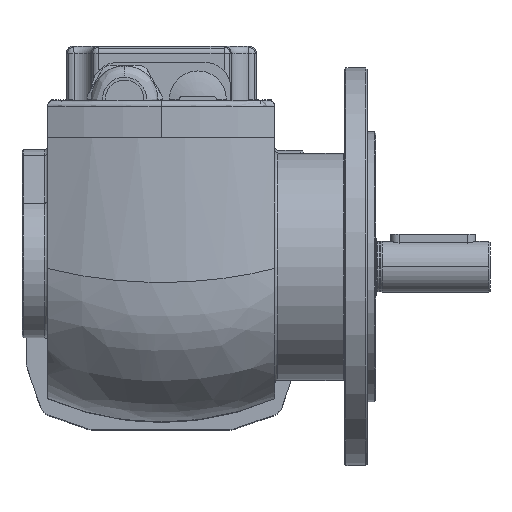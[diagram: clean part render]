
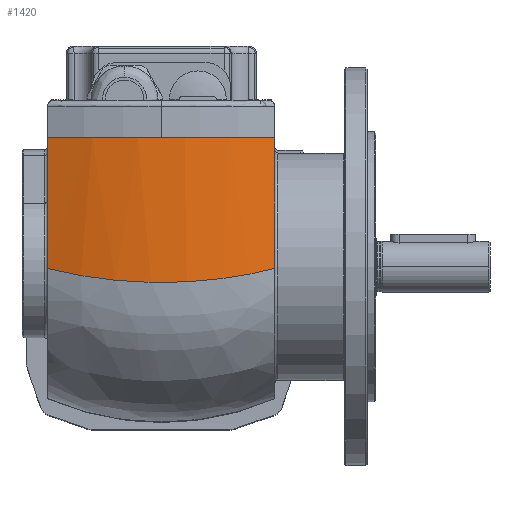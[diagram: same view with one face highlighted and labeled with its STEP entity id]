
A CAD part, top view. The second image highlights one B-rep face of the part: STEP entity #1420.
In plain terms, the highlighted cylindrical face has radius 109 mm (diameter 218 mm), a partial arc.
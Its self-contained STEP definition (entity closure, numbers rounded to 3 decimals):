
#147 = CARTESIAN_POINT ( 'NONE',  ( 5.074, 126.189, 26.289 ) ) ;
#1146 = EDGE_CURVE ( 'NONE', #10637, #9005, #14198, .T. ) ;
#1420 = ADVANCED_FACE ( 'NONE', ( #25009 ), #1811, .T. ) ;
#1811 = CYLINDRICAL_SURFACE ( 'NONE', #11333, 109. ) ;
#2133 = CARTESIAN_POINT ( 'NONE',  ( 0.602, 119.395, 80. ) ) ;
#2288 = CARTESIAN_POINT ( 'NONE',  ( 4.758, 125.702, 57.117 ) ) ;
#2432 = CARTESIAN_POINT ( 'NONE',  ( 4.122, 124.728, 17.843 ) ) ;
#2673 = DIRECTION ( 'NONE',  ( -1., 0., 0. ) ) ;
#4277 = CARTESIAN_POINT ( 'NONE',  ( 5.573, 126.959, 43.456 ) ) ;
#4418 = CARTESIAN_POINT ( 'NONE',  ( 2.149, 121.722, 6.321 ) ) ;
#4593 = CARTESIAN_POINT ( 'NONE',  ( 0.602, 119.395, 0. ) ) ;
#4737 = CARTESIAN_POINT ( 'NONE',  ( 0.602, 119.395, 0. ) ) ;
#5785 = DIRECTION ( 'NONE',  ( 0., 0., 1. ) ) ;
#5926 = VECTOR ( 'NONE', #2673, 1000. ) ;
#6875 = CARTESIAN_POINT ( 'NONE',  ( 3.083, 123.141, 11.203 ) ) ;
#7034 = CARTESIAN_POINT ( 'NONE',  ( 4.234, 124.899, 18.685 ) ) ;
#7954 = VERTEX_POINT ( 'NONE', #4593 ) ;
#8407 = CARTESIAN_POINT ( 'NONE',  ( 54.6, 18., 40. ) ) ;
#8525 = LINE ( 'NONE', #25135, #17729 ) ;
#9005 = VERTEX_POINT ( 'NONE', #15887 ) ;
#9045 = CARTESIAN_POINT ( 'NONE',  ( 4.76, 125.705, 22.898 ) ) ;
#9199 = CARTESIAN_POINT ( 'NONE',  ( 5.494, 126.836, 33.111 ) ) ;
#10589 = AXIS2_PLACEMENT_3D ( 'NONE', #17779, #27170, #5785 ) ;
#10637 = VERTEX_POINT ( 'NONE', #29331 ) ;
#11320 = CARTESIAN_POINT ( 'NONE',  ( 4.132, 124.742, 62.139 ) ) ;
#11333 = AXIS2_PLACEMENT_3D ( 'NONE', #8407, #17788, #17948 ) ;
#11474 = CARTESIAN_POINT ( 'NONE',  ( 5.388, 126.672, 48.617 ) ) ;
#13268 = DIRECTION ( 'NONE',  ( -1., 0., 0. ) ) ;
#13459 = CARTESIAN_POINT ( 'NONE',  ( -45.4, 119.395, 0. ) ) ;
#13951 = CARTESIAN_POINT ( 'NONE',  ( 2.151, 121.724, 73.673 ) ) ;
#14198 = LINE ( 'NONE', #16810, #5926 ) ;
#15010 = EDGE_CURVE ( 'NONE', #7954, #20323, #8525, .T. ) ;
#15887 = CARTESIAN_POINT ( 'NONE',  ( -45.4, 119.395, 80. ) ) ;
#16125 = CARTESIAN_POINT ( 'NONE',  ( 3.37, 123.577, 12.846 ) ) ;
#16267 = CARTESIAN_POINT ( 'NONE',  ( 1.427, 120.63, 3.129 ) ) ;
#16572 = CARTESIAN_POINT ( 'NONE',  ( 5.467, 126.795, 46.902 ) ) ;
#16810 = CARTESIAN_POINT ( 'NONE',  ( 54.6, 119.395, 80. ) ) ;
#17729 = VECTOR ( 'NONE', #13268, 1000. ) ;
#17779 = CARTESIAN_POINT ( 'NONE',  ( -45.4, 18., 40. ) ) ;
#17788 = DIRECTION ( 'NONE',  ( -1., 0., 0. ) ) ;
#17948 = DIRECTION ( 'NONE',  ( 0., 0., 1. ) ) ;
#18426 = CARTESIAN_POINT ( 'NONE',  ( 5.6, 127., 36.543 ) ) ;
#18884 = CARTESIAN_POINT ( 'NONE',  ( 3.376, 123.586, 67.119 ) ) ;
#19379 = ORIENTED_EDGE ( 'NONE', *, *, #15010, .T. ) ;
#19808 = ORIENTED_EDGE ( 'NONE', *, *, #1146, .F. ) ;
#20323 = VERTEX_POINT ( 'NONE', #13459 ) ;
#20547 = B_SPLINE_CURVE_WITH_KNOTS ( 'NONE', 3,
 ( #2133, #21034, #13951, #25960, #18884, #28290, #11320, #2288, #20887, #11474, #16572, #4277, #20739, #18426, #9199, #147, #9045, #7034, #2432, #30143, #27825, #16125, #6875, #4418, #16267, #4737 ),
 .UNSPECIFIED., .F., .F.,
 ( 4, 2, 2, 2, 2, 2, 2, 2, 2, 2, 2, 2, 4 ),
 ( 0., 0.01, 0.016, 0.021, 0.031, 0.036, 0.041, 0.052, 0.062, 0.065, 0.067, 0.073, 0.083 ),
 .UNSPECIFIED. ) ;
#20739 = CARTESIAN_POINT ( 'NONE',  ( 5.6, 127., 41.721 ) ) ;
#20887 = CARTESIAN_POINT ( 'NONE',  ( 5.072, 126.185, 53.737 ) ) ;
#21034 = CARTESIAN_POINT ( 'NONE',  ( 1.427, 120.63, 76.871 ) ) ;
#21894 = EDGE_LOOP ( 'NONE', ( #19808, #28299, #19379, #23548 ) ) ;
#22894 = CIRCLE ( 'NONE', #10589, 109. ) ;
#23548 = ORIENTED_EDGE ( 'NONE', *, *, #26851, .T. ) ;
#25009 = FACE_OUTER_BOUND ( 'NONE', #21894, .T. ) ;
#25135 = CARTESIAN_POINT ( 'NONE',  ( 54.6, 119.395, 0. ) ) ;
#25960 = CARTESIAN_POINT ( 'NONE',  ( 3.088, 123.148, 68.771 ) ) ;
#26642 = EDGE_CURVE ( 'NONE', #10637, #7954, #20547, .T. ) ;
#26851 = EDGE_CURVE ( 'NONE', #20323, #9005, #22894, .T. ) ;
#27170 = DIRECTION ( 'NONE',  ( 1., 0., 0. ) ) ;
#27825 = CARTESIAN_POINT ( 'NONE',  ( 3.762, 124.176, 15.335 ) ) ;
#28290 = CARTESIAN_POINT ( 'NONE',  ( 3.897, 124.383, 63.804 ) ) ;
#28299 = ORIENTED_EDGE ( 'NONE', *, *, #26642, .T. ) ;
#29331 = CARTESIAN_POINT ( 'NONE',  ( 0.602, 119.395, 80. ) ) ;
#30143 = CARTESIAN_POINT ( 'NONE',  ( 3.886, 124.366, 16.168 ) ) ;
